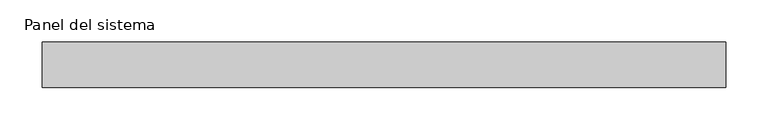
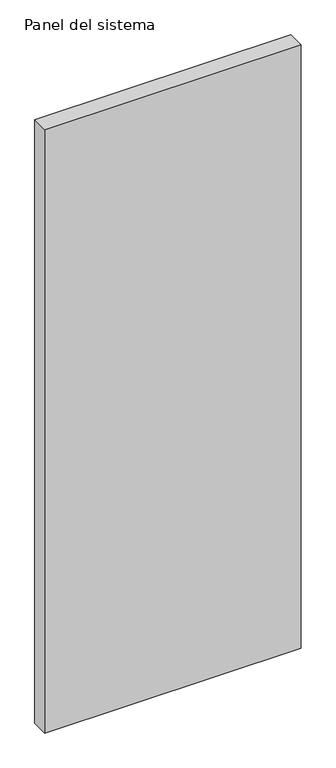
"""IFC4 building model written with IfcOpenShell, lengths in millimetres: plate geometry, Panel del sistema : HIANSA - CHAPA PERFILADA CUBIERTA - MT53MA8 Vert."""

import ifcopenshell
import ifcopenshell.guid

model = None  # the IFC model being written
_history = None  # IfcOwnerHistory: only IFC2X3 demands one
_inside = {}  # id of a spatial element -> (the spatial element, [elements in it])
_under = {}  # id of a project, library or spatial element -> (it, [spatial elements below it])
_declared = {}  # id of a project -> (the project, [libraries it declares])
_typed = {}  # id of a type object -> (the type object, [elements of that type])
_made_of = {}  # id of a material, layer set ... -> (it, [elements and type objects made of it])


def new_model(schema):
    """Start an empty IFC model of exactly this schema.

    Asked for "IFC4X3", IfcOpenShell would pick the latest addendum, in which some entities
    have other attributes; the version numbers below select the first issue.
    IFC2X3 requires an IfcOwnerHistory on every rooted entity: one is made here for all.
    """
    global model, _history
    if schema == "IFC4X3":
        model = ifcopenshell.file(schema_version=(4, 3, 0, 0))
    else:
        model = ifcopenshell.file(schema=schema)
    _inside.clear()
    _under.clear()
    _declared.clear()
    _typed.clear()
    _made_of.clear()
    _history = None
    if model.schema == "IFC2X3":
        org = make("IfcOrganization", Name="unknown")
        user = make(
            "IfcPersonAndOrganization",
            ThePerson=make("IfcPerson", FamilyName="unknown"),
            TheOrganization=org,
        )
        app = make(
            "IfcApplication",
            ApplicationDeveloper=org,
            Version="unknown",
            ApplicationFullName="unknown",
            ApplicationIdentifier="unknown",
        )
        _history = make(
            "IfcOwnerHistory",
            OwningUser=user,
            OwningApplication=app,
            ChangeAction="ADDED",
            CreationDate=0,
        )
    return model


def make(cls, **values):
    """One entity of the class cls with the attributes given. An attribute that is None is left unset."""
    return model.create_entity(
        cls, **{name: value for name, value in values.items() if value is not None}
    )


def rooted(cls, **values):
    """An entity with a GlobalId (a new one), such as an element, a storey or a relation."""
    return make(cls, GlobalId=ifcopenshell.guid.new(), OwnerHistory=_history, **values)


def si_unit(unit_type, name, prefix=None):
    """IfcSIUnit, for example si_unit("LENGTHUNIT", "METRE", prefix="MILLI")."""
    return make("IfcSIUnit", UnitType=unit_type, Prefix=prefix, Name=name)


def assignment(units):
    """IfcUnitAssignment: the units of a project."""
    return None if units is None else make("IfcUnitAssignment", Units=units)


def point(xyz):
    """IfcCartesianPoint."""
    return None if xyz is None else make("IfcCartesianPoint", Coordinates=xyz)


def direction(xyz):
    """IfcDirection."""
    return None if xyz is None else make("IfcDirection", DirectionRatios=xyz)


def frame(location, z_axis=None, x_axis=None):
    """IfcAxis2Placement3D, a coordinate frame: its origin and axes. An axis left out is left unset."""
    return make(
        "IfcAxis2Placement3D",
        Location=point(location),
        Axis=direction(z_axis),
        RefDirection=direction(x_axis),
    )


def origin():
    """The frame at (0, 0, 0) with its axes left unset."""
    return frame((0.0, 0.0, 0.0))


def origin_with_axes():
    """The frame at (0, 0, 0) with the z axis (0, 0, 1) and the x axis (1, 0, 0) written out."""
    return frame((0.0, 0.0, 0.0), z_axis=(0.0, 0.0, 1.0), x_axis=(1.0, 0.0, 0.0))


def place(relative_to, where):
    """IfcLocalPlacement: puts the frame where relative to a parent placement (None: the world)."""
    return make(
        "IfcLocalPlacement", PlacementRelTo=relative_to, RelativePlacement=where
    )


def context(
    kind, dimensions, precision=None, world=None, true_north=None, identifier=None
):
    """IfcGeometricRepresentationContext, for example the 3D "Model" context."""
    return make(
        "IfcGeometricRepresentationContext",
        ContextIdentifier=identifier,
        ContextType=kind,
        CoordinateSpaceDimension=dimensions,
        Precision=precision,
        WorldCoordinateSystem=world,
        TrueNorth=true_north,
    )


def project(units=None, contexts=None):
    """IfcProject with its units and contexts."""
    return rooted(
        "IfcProject",
        Name="project",
        RepresentationContexts=contexts,
        UnitsInContext=assignment(units),
    )


def spatial(cls, under=None, at=None, **own):
    """A site, building, storey or space (cls), placed at a placement, below another one or the project."""
    s = rooted(cls, ObjectPlacement=at, **own)
    if under is not None:
        _under.setdefault(under.id(), (under, []))[1].append(s)
    return s


def polyline(points):
    """IfcPolyline through the points."""
    return make("IfcPolyline", Points=[point(p) for p in points])


def outline(outer, holes=None, kind="AREA"):
    """IfcArbitraryClosedProfileDef: a profile drawn as a closed curve; with holes, ...WithVoids."""
    if holes is None:
        return make("IfcArbitraryClosedProfileDef", ProfileType=kind, OuterCurve=outer)
    return make(
        "IfcArbitraryProfileDefWithVoids",
        ProfileType=kind,
        OuterCurve=outer,
        InnerCurves=holes,
    )


def extrude(swept, where, along, depth):
    """IfcExtrudedAreaSolid: the profile swept, set in the frame where, extruded along a direction by depth."""
    return make(
        "IfcExtrudedAreaSolid",
        SweptArea=swept,
        Position=where,
        ExtrudedDirection=direction(along),
        Depth=depth,
    )


def shape(context_of_items, identifier, shape_type, items):
    """IfcShapeRepresentation: the items that make up one representation, for example the "Body"."""
    return make(
        "IfcShapeRepresentation",
        ContextOfItems=context_of_items,
        RepresentationIdentifier=identifier,
        RepresentationType=shape_type,
        Items=items,
    )


def source(mapping_origin, context_of_items, identifier, shape_type, items):
    """IfcRepresentationMap: a shape defined once, which mapped items show again and again."""
    return make(
        "IfcRepresentationMap",
        MappingOrigin=mapping_origin,
        MappedRepresentation=shape(context_of_items, identifier, shape_type, items),
    )


def transform(
    local_origin,
    x_axis=None,
    y_axis=None,
    z_axis=None,
    scale=None,
    scale2=None,
    scale3=None,
    uniform=True,
):
    """IfcCartesianTransformationOperator3D, or its non-uniform kind. x_axis, y_axis, z_axis: its Axis1, 2, 3."""
    if uniform:
        return make(
            "IfcCartesianTransformationOperator3D",
            Axis1=direction(x_axis),
            Axis2=direction(y_axis),
            LocalOrigin=point(local_origin),
            Scale=scale,
            Axis3=direction(z_axis),
        )
    return make(
        "IfcCartesianTransformationOperator3DnonUniform",
        Axis1=direction(x_axis),
        Axis2=direction(y_axis),
        LocalOrigin=point(local_origin),
        Scale=scale,
        Axis3=direction(z_axis),
        Scale2=scale2,
        Scale3=scale3,
    )


def mapped(mapping_source, mapping_target):
    """IfcMappedItem: shows the shape of a source again, moved by a transform."""
    return make(
        "IfcMappedItem", MappingSource=mapping_source, MappingTarget=mapping_target
    )


def made_of(thing, what):
    """Note that an element or type object is made of a material, layer set ...; save() writes the relation."""
    if what is not None:
        _made_of.setdefault(what.id(), (what, []))[1].append(thing)
    return thing


def element(
    cls,
    number,
    at=None,
    inside=None,
    cuts=None,
    type_object=None,
    material=None,
    context=None,
    identifier="Body",
    shape_type=None,
    held_by="IfcProductDefinitionShape",
    body=None,
    shapes=None,
    **own,
):
    """One element of the class cls, such as IfcWall. Its Tag is "e" and its number.

    at: its placement. inside: the storey or other place that contains it. cuts: it is an
    opening in that element (IfcRelVoidsElement). A single representation is given by context,
    identifier, shape_type and body (its items); several are given by shapes. held_by: the class
    of the entity that holds the representations. save() writes the other relations.
    """
    e = rooted(cls, Tag="e%d" % number, ObjectPlacement=at, **own)
    if body is not None:
        shapes = [shape(context, identifier, shape_type, body)]
    if shapes is not None:
        e.Representation = make(held_by, Representations=shapes)
    if inside is not None:
        _inside.setdefault(inside.id(), (inside, []))[1].append(e)
    if cuts is not None:
        rooted(
            "IfcRelVoidsElement", RelatingBuildingElement=cuts, RelatedOpeningElement=e
        )
    if type_object is not None:
        _typed.setdefault(type_object.id(), (type_object, []))[1].append(e)
    return made_of(e, material)


def aggregate(whole, parts):
    """IfcRelAggregates: a whole, such as a stair, and the parts it consists of."""
    return rooted("IfcRelAggregates", RelatingObject=whole, RelatedObjects=parts)


def save(model, path):
    """Write the relations noted so far, then the file.

    IfcRelAggregates (storeys below a building ...), IfcRelContainedInSpatialStructure (elements
    in a storey), IfcRelDefinesByType, IfcRelAssociatesMaterial and IfcRelDeclares: one each for
    every whole, place, type object, material and project.
    """
    for whole, parts in _under.values():
        aggregate(whole, parts)
    for where, things in _inside.values():
        rooted(
            "IfcRelContainedInSpatialStructure",
            RelatedElements=things,
            RelatingStructure=where,
        )
    for kind, things in _typed.values():
        rooted("IfcRelDefinesByType", RelatedObjects=things, RelatingType=kind)
    for what, things in _made_of.values():
        rooted("IfcRelAssociatesMaterial", RelatedObjects=things, RelatingMaterial=what)
    for by, libraries in _declared.values():
        rooted("IfcRelDeclares", RelatingContext=by, RelatedDefinitions=libraries)
    model.write(path)


def panel_del_sistema_0ed8374e(model_context):
    return source(origin(), model_context, "Body", "SweptSolid", [
        extrude(outline(polyline([(402.0000002, -52.5), (-402.0000002, -52.5), (-402.0000002, 0.5), (402.0000002, 0.5), (402.0000002, -52.5)])), origin_with_axes(), (0.0, 0.0, 1.0), 2000.0),
    ])


if __name__ == "__main__":
    model = new_model("IFC4")
    model_context = context("Model", 3, world=origin())
    ifc_project = project(units=[si_unit("LENGTHUNIT", "METRE", prefix="MILLI")], contexts=[model_context])
    site = spatial("IfcSite", under=ifc_project)
    building = spatial("IfcBuilding", under=site)
    placement = place(None, origin())
    panel_del_sistema_shape = panel_del_sistema_0ed8374e(model_context)
    element("IfcPlate", 1, ObjectType="Panel del sistema : HIANSA - CHAPA PERFILADA CUBIERTA - MT53MA8 Vert", at=placement, inside=building, context=model_context, shape_type="MappedRepresentation", body=[
        mapped(panel_del_sistema_shape, transform((0.0, 0.0, 0.0), x_axis=(1.0, 0.0, 0.0), y_axis=(0.0, 1.0, 0.0), z_axis=(0.0, 0.0, 1.0))),
    ])
    save(model, "model.ifc")
